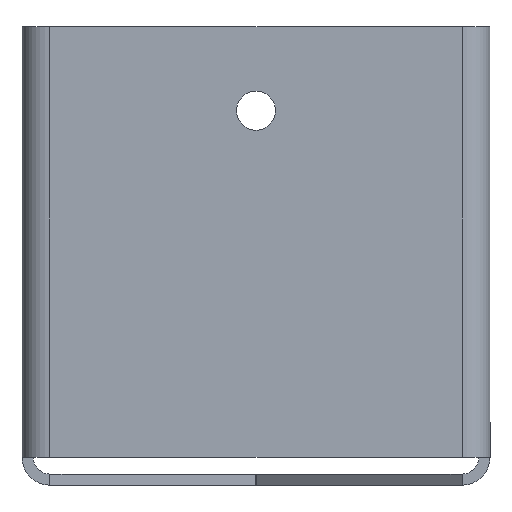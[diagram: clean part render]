
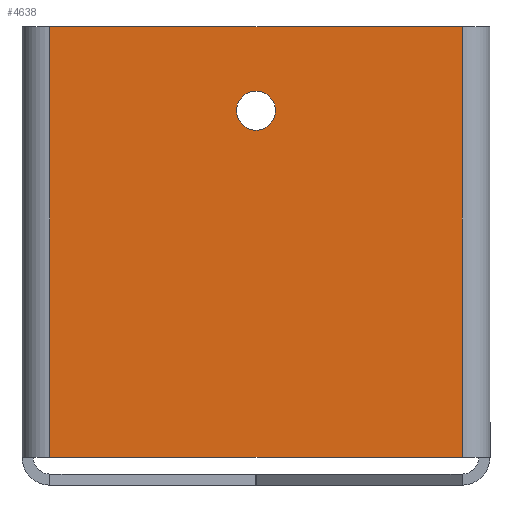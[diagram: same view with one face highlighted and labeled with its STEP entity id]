
A CAD part, front view. The second image highlights one B-rep face of the part: STEP entity #4638.
In plain terms, the highlighted planar face has unit normal (0, -1, 0).
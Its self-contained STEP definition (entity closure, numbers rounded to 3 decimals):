
#55 = CARTESIAN_POINT ( 'NONE',  ( 0., 0., -37. ) ) ;
#86 = DIRECTION ( 'NONE',  ( 1., 0., 0. ) ) ;
#148 = VECTOR ( 'NONE', #3476, 1000. ) ;
#198 = FACE_OUTER_BOUND ( 'NONE', #2081, .T. ) ;
#307 = DIRECTION ( 'NONE',  ( 1., 0., 0. ) ) ;
#327 = EDGE_CURVE ( 'NONE', #3106, #630, #4472, .T. ) ;
#373 = EDGE_LOOP ( 'NONE', ( #750, #1869 ) ) ;
#630 = VERTEX_POINT ( 'NONE', #1884 ) ;
#750 = ORIENTED_EDGE ( 'NONE', *, *, #327, .T. ) ;
#774 = VERTEX_POINT ( 'NONE', #1930 ) ;
#789 = ORIENTED_EDGE ( 'NONE', *, *, #2836, .F. ) ;
#811 = DIRECTION ( 'NONE',  ( 0., 1., 0. ) ) ;
#930 = DIRECTION ( 'NONE',  ( 0., 0., 1. ) ) ;
#1224 = AXIS2_PLACEMENT_3D ( 'NONE', #4062, #811, #2238 ) ;
#1285 = EDGE_CURVE ( 'NONE', #774, #1300, #4577, .T. ) ;
#1300 = VERTEX_POINT ( 'NONE', #3181 ) ;
#1328 = VECTOR ( 'NONE', #2421, 1000. ) ;
#1407 = CARTESIAN_POINT ( 'NONE',  ( 0., 0., 0. ) ) ;
#1497 = DIRECTION ( 'NONE',  ( 0., 0., -1. ) ) ;
#1514 = PLANE ( 'NONE',  #4312 ) ;
#1658 = DIRECTION ( 'NONE',  ( 0., 1., 0. ) ) ;
#1717 = CARTESIAN_POINT ( 'NONE',  ( 0., 0., 40. ) ) ;
#1768 = CIRCLE ( 'NONE', #1224, 3.5 ) ;
#1851 = AXIS2_PLACEMENT_3D ( 'NONE', #3840, #1658, #930 ) ;
#1853 = DIRECTION ( 'NONE',  ( 0., -1., 0. ) ) ;
#1863 = LINE ( 'NONE', #55, #3980 ) ;
#1869 = ORIENTED_EDGE ( 'NONE', *, *, #3709, .T. ) ;
#1884 = CARTESIAN_POINT ( 'NONE',  ( 220., 0., 21.5 ) ) ;
#1930 = CARTESIAN_POINT ( 'NONE',  ( 256.858, 0., -37. ) ) ;
#1966 = FACE_BOUND ( 'NONE', #373, .T. ) ;
#2081 = EDGE_LOOP ( 'NONE', ( #3105, #2796, #789, #2396 ) ) ;
#2189 = VERTEX_POINT ( 'NONE', #3836 ) ;
#2238 = DIRECTION ( 'NONE',  ( 0., 0., 1. ) ) ;
#2396 = ORIENTED_EDGE ( 'NONE', *, *, #4423, .F. ) ;
#2421 = DIRECTION ( 'NONE',  ( 0., 0., 1. ) ) ;
#2427 = CARTESIAN_POINT ( 'NONE',  ( 183.142, 0., 40. ) ) ;
#2499 = VECTOR ( 'NONE', #307, 1000. ) ;
#2796 = ORIENTED_EDGE ( 'NONE', *, *, #1285, .T. ) ;
#2836 = EDGE_CURVE ( 'NONE', #3378, #1300, #3348, .T. ) ;
#3105 = ORIENTED_EDGE ( 'NONE', *, *, #4336, .T. ) ;
#3106 = VERTEX_POINT ( 'NONE', #4430 ) ;
#3113 = CARTESIAN_POINT ( 'NONE',  ( 183.142, 0., 0. ) ) ;
#3181 = CARTESIAN_POINT ( 'NONE',  ( 256.858, 0., 40. ) ) ;
#3348 = LINE ( 'NONE', #1717, #2499 ) ;
#3378 = VERTEX_POINT ( 'NONE', #2427 ) ;
#3476 = DIRECTION ( 'NONE',  ( 0., 0., 1. ) ) ;
#3709 = EDGE_CURVE ( 'NONE', #630, #3106, #1768, .T. ) ;
#3836 = CARTESIAN_POINT ( 'NONE',  ( 183.142, 0., -37. ) ) ;
#3840 = CARTESIAN_POINT ( 'NONE',  ( 220., 0., 25. ) ) ;
#3980 = VECTOR ( 'NONE', #86, 1000. ) ;
#4062 = CARTESIAN_POINT ( 'NONE',  ( 220., 0., 25. ) ) ;
#4312 = AXIS2_PLACEMENT_3D ( 'NONE', #1407, #1853, #1497 ) ;
#4324 = LINE ( 'NONE', #3113, #148 ) ;
#4336 = EDGE_CURVE ( 'NONE', #2189, #774, #1863, .T. ) ;
#4423 = EDGE_CURVE ( 'NONE', #2189, #3378, #4324, .T. ) ;
#4430 = CARTESIAN_POINT ( 'NONE',  ( 220., 0., 28.5 ) ) ;
#4472 = CIRCLE ( 'NONE', #1851, 3.5 ) ;
#4577 = LINE ( 'NONE', #4617, #1328 ) ;
#4617 = CARTESIAN_POINT ( 'NONE',  ( 256.858, 0., 0. ) ) ;
#4638 = ADVANCED_FACE ( 'NONE', ( #1966, #198 ), #1514, .T. ) ;
